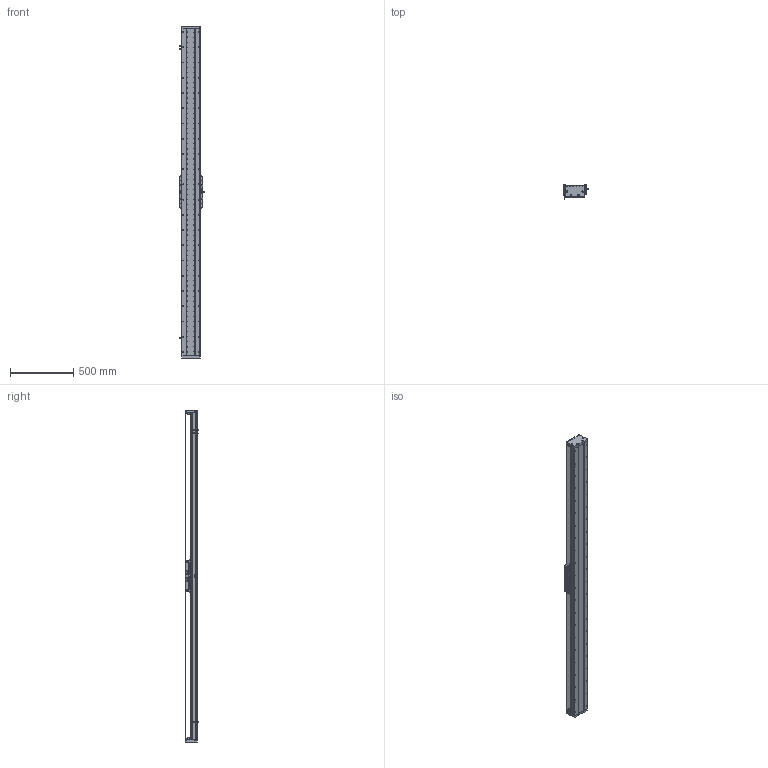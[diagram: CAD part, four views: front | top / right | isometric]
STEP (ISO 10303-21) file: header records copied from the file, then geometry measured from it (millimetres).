
FILE_DESCRIPTION (( 'STEP AP203' ), '1' );
FILE_NAME ('DA-C145-C3-T2280-C010-0.2 眻盄萇儂.STEP', '2025-08-14T01:32:25', ( '' ), ( '' ), 'SwSTEP 2.0', 'SolidWorks 2019', '' );
FILE_SCHEMA (( 'CONFIG_CONTROL_DESIGN' ));
Length unit declared in the file: millimetre
Products named in the file (32): 复件 DA95-MFP-01 密封片^CU145-W 滚珠滑台; 复件 DA145 钢带^复件 CU145 钢带组件_DA-C145-C3-T-C010-0.2; 复件 DA145-C3-YB-A-00 压板A^CU145-W 滚珠滑台; 葩璃 PM-T45^DA-C145-C3-T-C010-0.2; 复件 内六角平端紧定螺钉 GB.T77-2000 M5×10^CU145-W 滚珠滑台; 葩璃 DMA-010-0.2 黍杅芛^DA-C145-C3-T-C010-0.2; CU145-W-00 珨极趙賑雄怢啣; 葩璃 CKMA01-W060-TRL^DA-C145-C3-T-C010-0.2; 复件 半圆头内六角螺钉 M3×6^CU145-W 滚珠滑台; IU-CU145-L 菁釱絳寢; 葩璃 CKM03-W060-C1C2-TP-0.2^DA-C145-C3-T-C010-0.2; 葩璃 DA95-GT-T-00^IU-CU145-L 菁釱絳寢; 复件 DA146 钢带拉块^复件 CU145 钢带组件_DA-C145-C3-T-C010-0.2; 葩璃 DA95-HXJ-00 遣喳砎蝶^DA-C145-C3-T-C010-0.2; IU-CU145-L-00 菁釱(L2580); 复件 DA146 钢带垫块^复件 CU145 钢带组件_DA-C145-C3-T-C010-0.2; 葩璃 鞠褒情蹟譫 M3^DA-C145-C3-T-C010-0.2; 葩璃 XD-U-02L 棠掑喜^DA-C145-C3-T-C010-0.2; 葩璃 DA145-C3-DP-B-00 菜えB^CU145-W 幗紩賑怢; 复件 DA95-DB-00  挡板^CU145-W 滚珠滑台; TAY01-M8; CU145-W 幗紩賑怢; 复件 DA145-C3-YB-B-00 压板B^CU145-W 滚珠滑台; 葩璃 CU145 詩湍郪璃^DA-C145-C3-T-C010-0.2; 复件 DA95-HK-GT-00 滑块钢轨^CU145-W-00 一体化滑动台板; 复件 纯铜油杯 6x6mm^CU145-W 滚珠滑台; 复件 DA145-C3-DK-00 挡块^CU145-W 滚珠滑台; 66245-CU145-HT-W-00 賑雄怢啣(3D芞祧)(00); 葩璃 DA145-C3-DP-A-00 菜えA^CU145-W 幗紩賑怢; 复件 DA145-GYP-00 光电感应片^DA-C145-C3-T-C010-0.2; 复件 DA145-DG 钢带端盖^复件 CU145 钢带组件_DA-C145-C3-T-C010-0.2; DA-C145-C3-T2280-C010-0.2 眻盄萇儂
Assembly tree (103 placements, depth 4):
  DA-C145-C3-T2280-C010-0.2 眻盄萇儂
    IU-CU145-L 菁釱絳寢
      IU-CU145-L-00 菁釱(L2580)
      葩璃 DA95-GT-T-00^IU-CU145-L 菁釱絳寢  x4
    葩璃 CU145 詩湍郪璃^DA-C145-C3-T-C010-0.2
      复件 DA145-DG 钢带端盖^复件 CU145 钢带组件_DA-C145-C3-T-C010-0.2  x2
      复件 DA146 钢带拉块^复件 CU145 钢带组件_DA-C145-C3-T-C010-0.2  x2
      复件 DA146 钢带垫块^复件 CU145 钢带组件_DA-C145-C3-T-C010-0.2  x2
      复件 DA145 钢带^复件 CU145 钢带组件_DA-C145-C3-T-C010-0.2
    CU145-W 幗紩賑怢
      CU145-W-00 珨极趙賑雄怢啣
        66245-CU145-HT-W-00 賑雄怢啣(3D芞祧)(00)
        复件 DA95-HK-GT-00 滑块钢轨^CU145-W-00 一体化滑动台板  x8
      复件 DA95-MFP-01 密封片^CU145-W 滚珠滑台  x8
      复件 DA95-DB-00  挡板^CU145-W 滚珠滑台  x8
      复件 内六角平端紧定螺钉 GB.T77-2000 M5×10^CU145-W 滚珠滑台  x4
      复件 纯铜油杯 6x6mm^CU145-W 滚珠滑台  x4
      复件 半圆头内六角螺钉 M3×6^CU145-W 滚珠滑台  x16
      复件 DA145-C3-DK-00 挡块^CU145-W 滚珠滑台  x4
      葩璃 DA145-C3-DP-B-00 菜えB^CU145-W 幗紩賑怢  x2
      复件 DA145-C3-YB-B-00 压板B^CU145-W 滚珠滑台  x2
      葩璃 DA145-C3-DP-A-00 菜えA^CU145-W 幗紩賑怢  x3
      复件 DA145-C3-YB-A-00 压板A^CU145-W 滚珠滑台  x3
      TAY01-M8  x4
    葩璃 CKMA01-W060-TRL^DA-C145-C3-T-C010-0.2
    葩璃 PM-T45^DA-C145-C3-T-C010-0.2  x3
    葩璃 XD-U-02L 棠掑喜^DA-C145-C3-T-C010-0.2
    葩璃 DA95-HXJ-00 遣喳砎蝶^DA-C145-C3-T-C010-0.2  x4
    复件 DA145-GYP-00 光电感应片^DA-C145-C3-T-C010-0.2
    葩璃 DMA-010-0.2 黍杅芛^DA-C145-C3-T-C010-0.2
    葩璃 CKM03-W060-C1C2-TP-0.2^DA-C145-C3-T-C010-0.2
    葩璃 鞠褒情蹟譫 M3^DA-C145-C3-T-C010-0.2  x8
Bounding box: 203.5 x 108.45 x 2616 mm (x, y, z)
Volume: 12345254.2 mm3; surface area: 4114003.8 mm2
Topology: 99 solids, 131 shells, 4653 faces, 13274 edges, 8314 vertices
Faces by surface type: cylinder 2289, plane 1596, cone 690, torus 74, sphere 4
Entity records: 127824 total; most frequent: CARTESIAN_POINT 38046, ORIENTED_EDGE 18068, DIRECTION 17209, EDGE_CURVE 9034, AXIS2_PLACEMENT_3D 6464, VERTEX_POINT 5853, LINE 4281, VECTOR 4281
